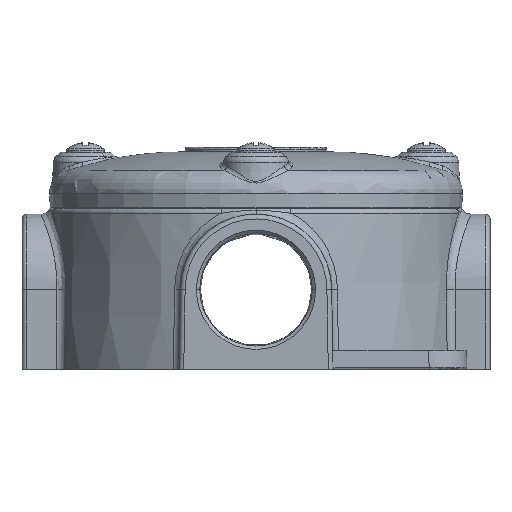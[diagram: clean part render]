
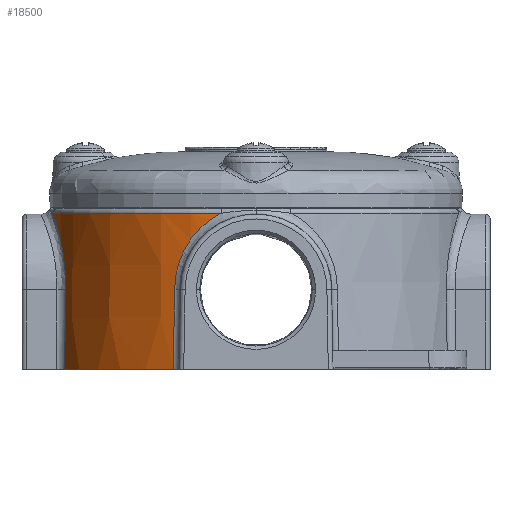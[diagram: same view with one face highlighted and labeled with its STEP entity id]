
A CAD part, front view. The second image highlights one B-rep face of the part: STEP entity #18500.
In plain terms, the highlighted conical face has half-angle 1 degrees and reference radius 43.805 mm.
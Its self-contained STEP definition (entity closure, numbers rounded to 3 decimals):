
#5322=CARTESIAN_POINT('',(0.,0.,16.217));
#5323=DIRECTION('',(0.,0.,-1.));
#5324=DIRECTION('',(-0.17,-0.985,0.));
#5325=AXIS2_PLACEMENT_3D('',#5322,#5323,#5324);
#5523=CARTESIAN_POINT('',(-42.884,-7.397,
16.217));
#5524=CARTESIAN_POINT('',(-42.812,-7.837,
15.998));
#5525=CARTESIAN_POINT('',(-42.657,-8.701,
15.52));
#5526=CARTESIAN_POINT('',(-42.397,-9.956,
14.675));
#5527=CARTESIAN_POINT('',(-42.116,-11.148,
13.709));
#5528=CARTESIAN_POINT('',(-41.824,-12.262,
12.629));
#5529=CARTESIAN_POINT('',(-41.531,-13.286,
11.444));
#5530=CARTESIAN_POINT('',(-41.248,-14.206,
10.168));
#5531=CARTESIAN_POINT('',(-40.986,-15.01,
8.819));
#5532=CARTESIAN_POINT('',(-40.756,-15.691,
7.417));
#5533=CARTESIAN_POINT('',(-40.564,-16.249,
5.97));
#5534=CARTESIAN_POINT('',(-40.415,-16.682,
4.489));
#5535=CARTESIAN_POINT('',(-40.314,-16.99,
2.988));
#5536=CARTESIAN_POINT('',(-40.266,-17.173,
1.479));
#5537=CARTESIAN_POINT('',(-40.266,-17.213,
0.481));
#5538=CARTESIAN_POINT('',(-40.275,-17.214,
-0.017));
#5546=CARTESIAN_POINT('',(-17.214,-40.275,
-0.017));
#5547=CARTESIAN_POINT('',(-17.245,-40.298,
-1.882));
#5548=CARTESIAN_POINT('',(-17.309,-40.34,
-5.612));
#5549=CARTESIAN_POINT('',(-17.404,-40.408,
-11.207));
#5550=CARTESIAN_POINT('',(-17.468,-40.451,
-14.936));
#5551=CARTESIAN_POINT('',(-17.5,-40.473,
-16.8));
#5553=CARTESIAN_POINT('',(-40.473,-17.5,
-16.8));
#5554=CARTESIAN_POINT('',(-40.451,-17.468,
-14.936));
#5555=CARTESIAN_POINT('',(-40.408,-17.404,
-11.207));
#5556=CARTESIAN_POINT('',(-40.34,-17.309,
-5.612));
#5557=CARTESIAN_POINT('',(-40.298,-17.245,
-1.882));
#5558=CARTESIAN_POINT('',(-40.275,-17.214,
-0.017));
#5560=CARTESIAN_POINT('',(-17.214,-40.275,
-0.017));
#5561=CARTESIAN_POINT('',(-17.213,-40.258,
0.946));
#5562=CARTESIAN_POINT('',(-17.061,-40.288,
2.837));
#5563=CARTESIAN_POINT('',(-16.442,-40.496,
5.53));
#5564=CARTESIAN_POINT('',(-15.39,-40.862,
8.205));
#5565=CARTESIAN_POINT('',(-13.868,-41.362,
10.765));
#5566=CARTESIAN_POINT('',(-11.992,-41.909,
12.991));
#5567=CARTESIAN_POINT('',(-9.77,-42.452,
14.879));
#5568=CARTESIAN_POINT('',(-8.207,-42.751,
15.814));
#5569=CARTESIAN_POINT('',(-7.397,-42.884,
16.217));
#5752=CARTESIAN_POINT('',(0.,0.,-16.8));
#5753=DIRECTION('',(0.,0.,1.));
#5754=DIRECTION('',(-0.918,-0.397,0.));
#5755=AXIS2_PLACEMENT_3D('',#5752,#5753,#5754);
#6681=CARTESIAN_POINT('',(-40.473,-17.5,
-16.8));
#7475=VERTEX_POINT('',#6681);
#7476=CARTESIAN_POINT('',(-17.499,-40.472,-16.8));
#7477=VERTEX_POINT('',#7476);
#7522=VERTEX_POINT('',#5546);
#7529=CARTESIAN_POINT('',(-7.397,-42.884,
16.217));
#7530=CARTESIAN_POINT('',(-42.884,-7.397,
16.217));
#7531=VERTEX_POINT('',#7529);
#7532=VERTEX_POINT('',#7530);
#7533=VERTEX_POINT('',#5558);
#18483=CARTESIAN_POINT('',(0.,0.,-0.291));
#18484=DIRECTION('',(0.,0.,-1.));
#18485=DIRECTION('',(1.,0.,0.));
#18486=AXIS2_PLACEMENT_3D('',#18483,#18484,#18485);
#18487=CONICAL_SURFACE('',#18486,43.805,1.);
#18488=ORIENTED_EDGE('',*,*,#17647,.F.);
#18490=ORIENTED_EDGE('',*,*,#18489,.F.);
#18492=ORIENTED_EDGE('',*,*,#18491,.T.);
#18494=ORIENTED_EDGE('',*,*,#18493,.F.);
#18496=ORIENTED_EDGE('',*,*,#18495,.T.);
#18497=ORIENTED_EDGE('',*,*,#18473,.F.);
#18498=EDGE_LOOP('',(#18488,#18490,#18492,#18494,#18496,#18497));
#18499=FACE_OUTER_BOUND('',#18498,.F.);
#18500=ADVANCED_FACE('',(#18499),#18487,.T.);
#5326=CIRCLE('',#5325,43.517);
#5539=B_SPLINE_CURVE_WITH_KNOTS('',3,(#5523,#5524,#5525,#5526,#5527,#5528,#5529,
#5530,#5531,#5532,#5533,#5534,#5535,#5536,#5537,#5538),.UNSPECIFIED.,.F.,.F.,(4,
1,1,1,1,1,1,1,1,1,1,1,1,4),(0.,0.077,0.154,
0.231,0.308,0.385,0.462,
0.538,0.615,0.692,0.769,
0.846,0.923,1.),.UNSPECIFIED.);
#5552=B_SPLINE_CURVE_WITH_KNOTS('',3,(#5546,#5547,#5548,#5549,#5550,#5551),
.UNSPECIFIED.,.F.,.F.,(4,1,1,4),(0.,0.333,0.667,1.),
.UNSPECIFIED.);
#5559=B_SPLINE_CURVE_WITH_KNOTS('',3,(#5553,#5554,#5555,#5556,#5557,#5558),
.UNSPECIFIED.,.F.,.F.,(4,1,1,4),(0.,0.333,0.667,1.),
.UNSPECIFIED.);
#5570=B_SPLINE_CURVE_WITH_KNOTS('',3,(#5560,#5561,#5562,#5563,#5564,#5565,#5566,
#5567,#5568,#5569),.UNSPECIFIED.,.F.,.F.,(4,1,1,1,1,1,1,4),(0.,
0.143,0.286,0.429,0.571,
0.714,0.857,1.),.UNSPECIFIED.);
#5756=CIRCLE('',#5755,44.093);
#17647=EDGE_CURVE('',#7531,#7532,#5326,.T.);
#18473=EDGE_CURVE('',#7532,#7533,#5539,.T.);
#18489=EDGE_CURVE('',#7522,#7531,#5570,.T.);
#18491=EDGE_CURVE('',#7522,#7477,#5552,.T.);
#18493=EDGE_CURVE('',#7475,#7477,#5756,.T.);
#18495=EDGE_CURVE('',#7475,#7533,#5559,.T.);
